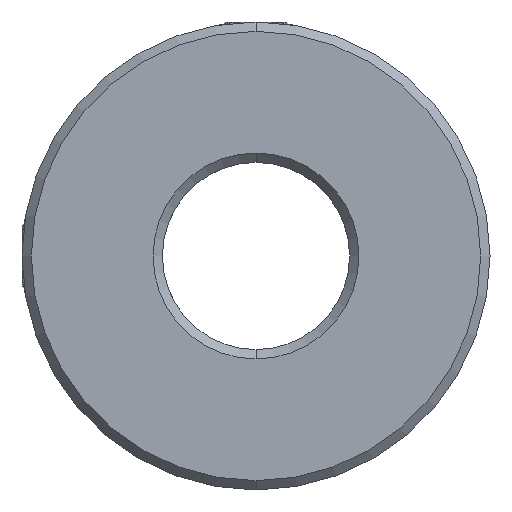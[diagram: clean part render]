
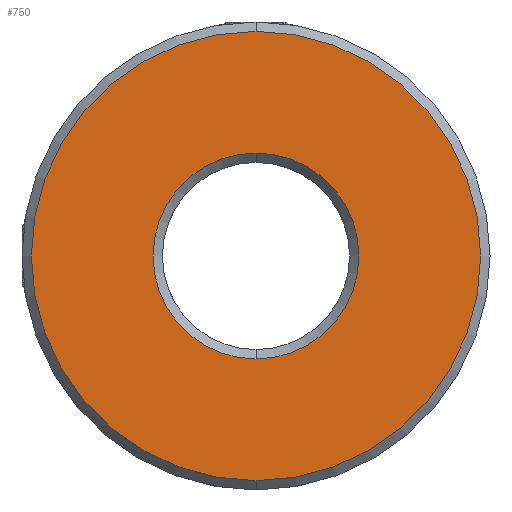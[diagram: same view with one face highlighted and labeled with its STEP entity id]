
A CAD part, front view. The second image highlights one B-rep face of the part: STEP entity #750.
In plain terms, the highlighted planar face has unit normal (0, -1, 0).
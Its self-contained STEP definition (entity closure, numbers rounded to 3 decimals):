
#56 = DIRECTION ( 'NONE',  ( 0., -1., 0. ) ) ;
#214 = DIRECTION ( 'NONE',  ( 0., 0., 1. ) ) ;
#227 = EDGE_LOOP ( 'NONE', ( #2901, #2149 ) ) ;
#492 = AXIS2_PLACEMENT_3D ( 'NONE', #873, #3341, #2288 ) ;
#750 = ADVANCED_FACE ( 'NONE', ( #1237, #3484 ), #2899, .F. ) ;
#753 = VERTEX_POINT ( 'NONE', #2601 ) ;
#794 = AXIS2_PLACEMENT_3D ( 'NONE', #1644, #3399, #214 ) ;
#873 = CARTESIAN_POINT ( 'NONE',  ( -10.188, -0.277, 0.046 ) ) ;
#1148 = VERTEX_POINT ( 'NONE', #2903 ) ;
#1235 = EDGE_CURVE ( 'NONE', #1148, #1796, #3650, .T. ) ;
#1237 = FACE_OUTER_BOUND ( 'NONE', #227, .T. ) ;
#1382 = AXIS2_PLACEMENT_3D ( 'NONE', #1476, #2338, #3444 ) ;
#1476 = CARTESIAN_POINT ( 'NONE',  ( -10.188, -0.277, 0.046 ) ) ;
#1644 = CARTESIAN_POINT ( 'NONE',  ( -10.188, -0.277, 0.046 ) ) ;
#1796 = VERTEX_POINT ( 'NONE', #3003 ) ;
#1820 = CIRCLE ( 'NONE', #492, 12. ) ;
#1855 = DIRECTION ( 'NONE',  ( 0., 0., 1. ) ) ;
#2149 = ORIENTED_EDGE ( 'NONE', *, *, #2707, .T. ) ;
#2229 = ORIENTED_EDGE ( 'NONE', *, *, #2719, .T. ) ;
#2260 = CARTESIAN_POINT ( 'NONE',  ( -10.188, -0.277, 0.046 ) ) ;
#2288 = DIRECTION ( 'NONE',  ( 0., 0., 1. ) ) ;
#2322 = AXIS2_PLACEMENT_3D ( 'NONE', #2260, #3191, #1855 ) ;
#2338 = DIRECTION ( 'NONE',  ( 0., 1., 0. ) ) ;
#2407 = CIRCLE ( 'NONE', #794, 5.5 ) ;
#2570 = EDGE_LOOP ( 'NONE', ( #3310, #2229 ) ) ;
#2593 = CARTESIAN_POINT ( 'NONE',  ( -10.188, -0.277, 0.046 ) ) ;
#2601 = CARTESIAN_POINT ( 'NONE',  ( -10.188, -0.277, -5.454 ) ) ;
#2661 = AXIS2_PLACEMENT_3D ( 'NONE', #2593, #56, #3436 ) ;
#2707 = EDGE_CURVE ( 'NONE', #1796, #1148, #1820, .T. ) ;
#2719 = EDGE_CURVE ( 'NONE', #3534, #753, #2407, .T. ) ;
#2899 = PLANE ( 'NONE',  #1382 ) ;
#2901 = ORIENTED_EDGE ( 'NONE', *, *, #1235, .T. ) ;
#2903 = CARTESIAN_POINT ( 'NONE',  ( -10.188, -0.277, 12.046 ) ) ;
#3003 = CARTESIAN_POINT ( 'NONE',  ( -10.188, -0.277, -11.954 ) ) ;
#3191 = DIRECTION ( 'NONE',  ( 0., 1., 0. ) ) ;
#3255 = EDGE_CURVE ( 'NONE', #753, #3534, #3366, .T. ) ;
#3272 = CARTESIAN_POINT ( 'NONE',  ( -10.188, -0.277, 5.546 ) ) ;
#3310 = ORIENTED_EDGE ( 'NONE', *, *, #3255, .T. ) ;
#3341 = DIRECTION ( 'NONE',  ( 0., -1., 0. ) ) ;
#3366 = CIRCLE ( 'NONE', #2322, 5.5 ) ;
#3399 = DIRECTION ( 'NONE',  ( 0., 1., 0. ) ) ;
#3436 = DIRECTION ( 'NONE',  ( 0., 0., 1. ) ) ;
#3444 = DIRECTION ( 'NONE',  ( 0., 0., 1. ) ) ;
#3484 = FACE_BOUND ( 'NONE', #2570, .T. ) ;
#3534 = VERTEX_POINT ( 'NONE', #3272 ) ;
#3650 = CIRCLE ( 'NONE', #2661, 12. ) ;
